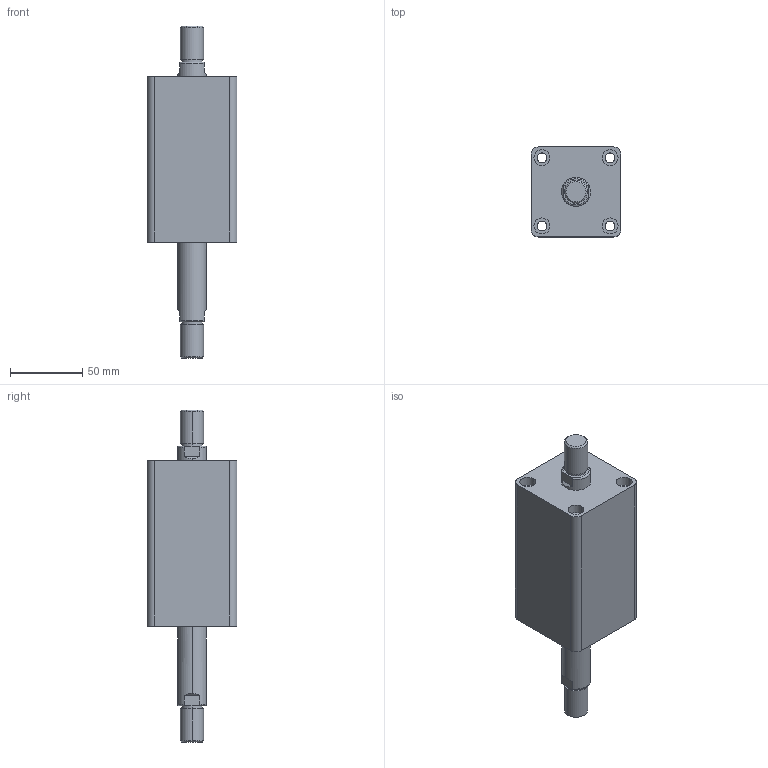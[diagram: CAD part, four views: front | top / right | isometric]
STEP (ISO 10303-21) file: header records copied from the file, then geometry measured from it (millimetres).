
FILE_DESCRIPTION (( 'STEP AP203' ), '1' );
FILE_NAME ('HTB-SW32-45W.STEP', '2019-10-07T08:53:42', ( '微软用户' ), ( '微软中国' ), 'SwSTEP 2.0', 'SolidWorks 2012', '' );
FILE_SCHEMA (( 'CONFIG_CONTROL_DESIGN' ));
Length unit declared in the file: millimetre
Products named in the file (3): HTB-SW32-45W; HTB-SW32-45W活塞杆; HTB-SW32-45掛极
Assembly tree (2 placements, depth 2):
  HTB-SW32-45W
    HTB-SW32-45掛极
    HTB-SW32-45W活塞杆
Bounding box: 62 x 62 x 229 mm (x, y, z)
Volume: 421794.4 mm3; surface area: 71682.3 mm2
Topology: 2 solids, 2 shells, 108 faces, 240 edges, 156 vertices
Faces by surface type: cylinder 52, plane 36, torus 12, cone 8
Entity records: 3449 total; most frequent: CARTESIAN_POINT 629, DIRECTION 586, ORIENTED_EDGE 480, AXIS2_PLACEMENT_3D 249, EDGE_CURVE 240, VERTEX_POINT 156, EDGE_LOOP 138, CIRCLE 136
